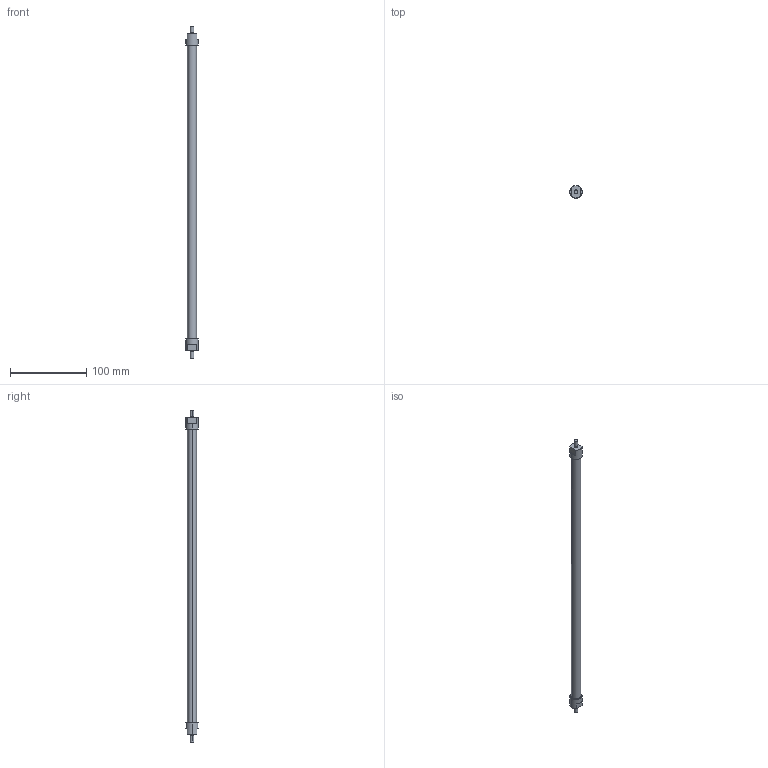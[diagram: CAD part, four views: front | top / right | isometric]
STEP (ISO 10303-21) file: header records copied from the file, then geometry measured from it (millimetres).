
FILE_DESCRIPTION(('STEP AP214'),'1');
FILE_NAME('ETT-R025N425.stp','2015-02-04T08:20:58',(' '),(' '),'Spatial InterOp 3D',' ',' ');
FILE_SCHEMA(('automotive_design'));
Length unit declared in the file: metre
Products named in the file (3): 1; 2; 3
Bounding box: 16 x 16 x 436 mm (x, y, z)
Volume: 49615.9 mm3; surface area: 17140.9 mm2
Topology: 1 solids, 7 shells, 30 faces, 81 edges, 63 vertices
Faces by surface type: plane 16, cylinder 14
Entity records: 1295 total; most frequent: DIRECTION 194, CARTESIAN_POINT 177, ORIENTED_EDGE 138, EDGE_CURVE 81, AXIS2_PLACEMENT_3D 80, VERTEX_POINT 63, CIRCLE 47, EDGE_LOOP 36
